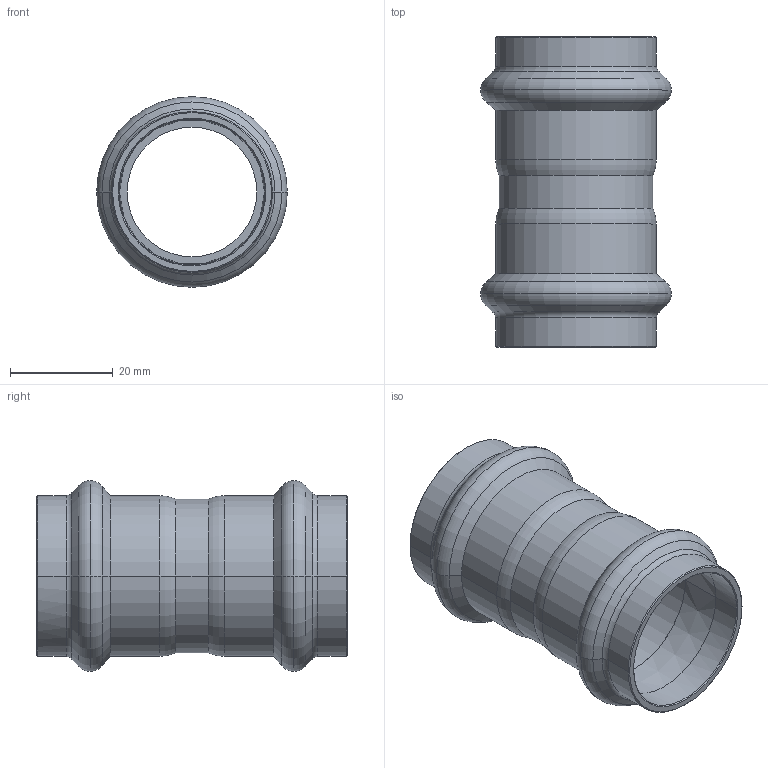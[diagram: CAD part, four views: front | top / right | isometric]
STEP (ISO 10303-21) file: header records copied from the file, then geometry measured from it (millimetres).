
FILE_DESCRIPTION(('CoCreate Modeling STEP Export'),'2;1');
FILE_NAME('8270VW28.stp','2013-01-29T11:57:53',(''),(''),'CoCreate Modeling STEP processor for AP214 (Solid Model)','CoCreate Modeling 17.00A 17-Jun-2010 (C) Parametric Technology GmbH','');
FILE_SCHEMA(('AUTOMOTIVE_DESIGN { 1 0 10303 214 1 1 1 1 }'));
Length unit declared in the file: millimetre
Products named in the file (1): 8270VW28
Bounding box: 37.2 x 60.61 x 37.2 mm (x, y, z)
Volume: 11962.5 mm3; surface area: 12718.2 mm2
Topology: 1 solids, 1 shells, 78 faces, 174 edges, 102 vertices
Faces by surface type: torus 28, cylinder 24, cone 20, plane 6
Entity records: 1728 total; most frequent: ORIENTED_EDGE 348, DIRECTION 266, CARTESIAN_POINT 257, EDGE_CURVE 174, AXIS2_PLACEMENT_3D 111, VERTEX_POINT 102, EDGE_LOOP 84, FACE_OUTER_BOUND 78
